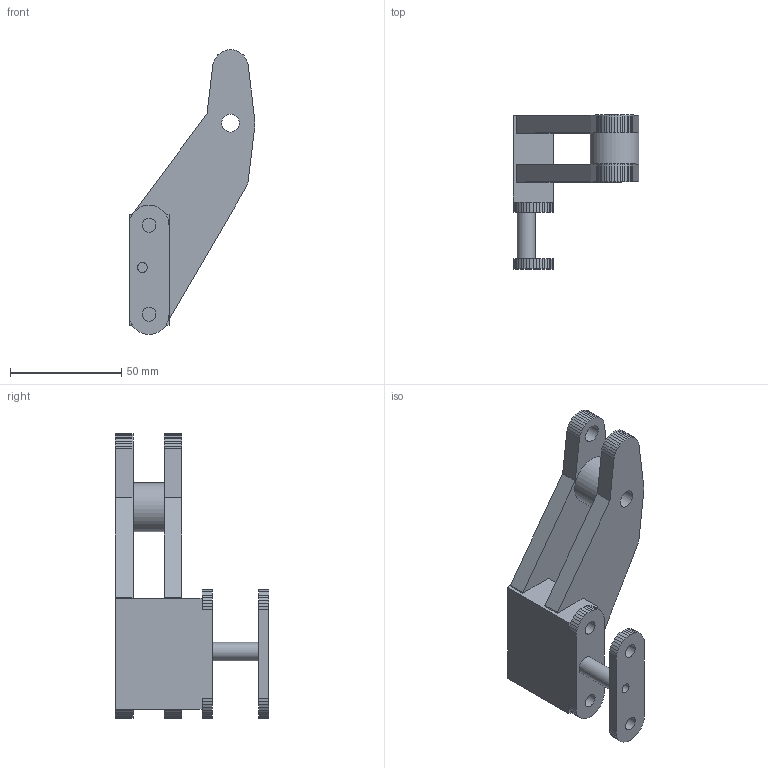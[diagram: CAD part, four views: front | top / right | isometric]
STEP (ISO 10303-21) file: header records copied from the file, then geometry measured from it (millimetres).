
FILE_DESCRIPTION(('Open CASCADE Model'),'2;1');
FILE_NAME('Open CASCADE Shape Model','2026-10-17T21:54:41',('Author'),( 'Open CASCADE'),'Open CASCADE STEP processor 7.9','Open CASCADE 7.9' ,'Unknown');
FILE_SCHEMA(('AUTOMOTIVE_DESIGN { 1 0 10303 214 1 1 1 1 }'));
Length unit declared in the file: millimetre
Products named in the file (1): Open CASCADE STEP translator 7.9 5
Bounding box: 56.6 x 69 x 127.85 mm (x, y, z)
Volume: 90766.4 mm3; surface area: 26655.1 mm2
Topology: 1 solids, 1 shells, 199 faces, 569 edges, 378 vertices
Faces by surface type: plane 187, cylinder 12
Full cylindrical faces by diameter (mm): 4.4 x1, 6.2 x4, 7 x2, 8 x3, 8.196 x1, 22 x1
Entity records: 13799 total; most frequent: CARTESIAN_POINT 2359, DIRECTION 2096, LINE 1619, VECTOR 1619, ORIENTED_EDGE 1138, PCURVE 1138, DEFINITIONAL_REPRESENTATION 1138, EDGE_CURVE 569
